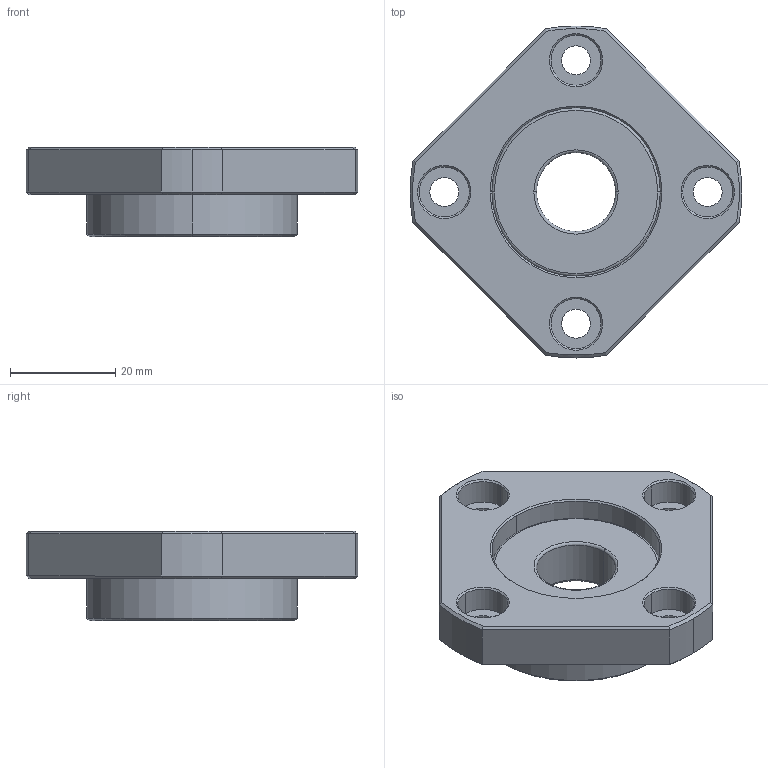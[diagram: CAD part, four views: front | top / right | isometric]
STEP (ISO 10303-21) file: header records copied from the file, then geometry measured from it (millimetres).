
FILE_DESCRIPTION (( 'STEP AP203' ), '1' );
FILE_NAME ('FSGF-15_203.STEP', '2013-02-28T00:08:44', ( '' ), ( '' ), 'SwSTEP 2.0', 'SolidWorks 2012', '' );
FILE_SCHEMA (( 'CONFIG_CONTROL_DESIGN' ));
Length unit declared in the file: millimetre
Products named in the file (1): FSGF-15_203
Bounding box: 62.88 x 63 x 17 mm (x, y, z)
Volume: 23409.7 mm3; surface area: 9369.7 mm2
Topology: 1 solids, 1 shells, 82 faces, 186 edges, 113 vertices
Faces by surface type: cylinder 29, cone 24, plane 21, torus 8
Entity records: 2424 total; most frequent: DIRECTION 441, CARTESIAN_POINT 430, ORIENTED_EDGE 372, AXIS2_PLACEMENT_3D 188, EDGE_CURVE 186, VERTEX_POINT 113, CIRCLE 105, EDGE_LOOP 99
